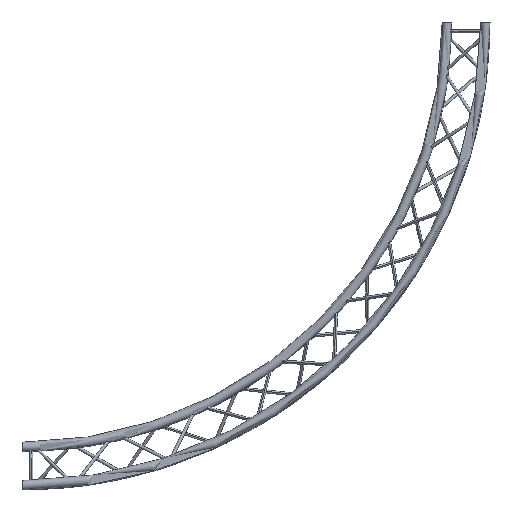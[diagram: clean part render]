
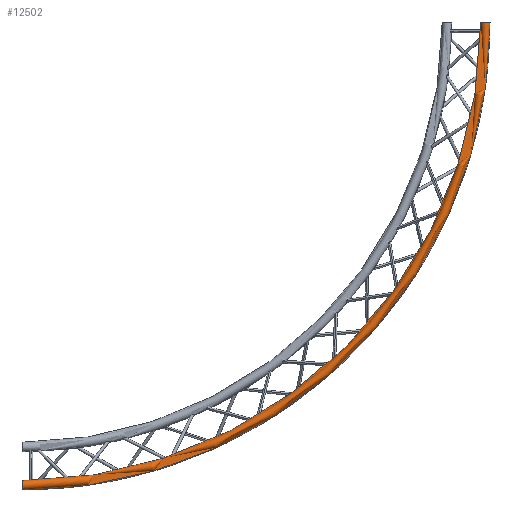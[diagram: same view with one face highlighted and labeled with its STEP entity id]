
A CAD part, front view. The second image highlights one B-rep face of the part: STEP entity #12502.
In plain terms, the highlighted toroidal (fillet/blend) face has major radius 2475 mm and minor radius 25 mm.
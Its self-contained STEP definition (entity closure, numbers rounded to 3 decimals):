
#4724 = CARTESIAN_POINT ( 'NONE',  ( 2500., -118.5, 0. ) ) ;
#4905 = DIRECTION ( 'NONE',  ( 0., 0., -1. ) ) ;
#4906 = DIRECTION ( 'NONE',  ( 0., -1., 0. ) ) ;
#4907 = CARTESIAN_POINT ( 'NONE',  ( 0., -118.5, 0. ) ) ;
#4908 = AXIS2_PLACEMENT_3D ( 'NONE', #4907, #4906, #4905 ) ;
#4909 = TOROIDAL_SURFACE ( 'NONE', #4908, 2475., 25. ) ;
#4910 = FACE_OUTER_BOUND ( 'NONE', #12390, .T. ) ;
#5152 = DIRECTION ( 'NONE',  ( 0., 0., -1. ) ) ;
#5153 = DIRECTION ( 'NONE',  ( 0., -1., 0. ) ) ;
#5154 = CARTESIAN_POINT ( 'NONE',  ( 0., -118.5, 0. ) ) ;
#5155 = AXIS2_PLACEMENT_3D ( 'NONE', #5154, #5153, #5152 ) ;
#5156 = CIRCLE ( 'NONE', #5155, 2500. ) ;
#5158 = CARTESIAN_POINT ( 'NONE',  ( 0., -118.5, -2450. ) ) ;
#5159 = CARTESIAN_POINT ( 'NONE',  ( 0., -118.5, -2500. ) ) ;
#5162 = DIRECTION ( 'NONE',  ( 0., 0., -1. ) ) ;
#5163 = DIRECTION ( 'NONE',  ( 1., 0., 0. ) ) ;
#5164 = CARTESIAN_POINT ( 'NONE',  ( 0., -118.5, -2475. ) ) ;
#5165 = AXIS2_PLACEMENT_3D ( 'NONE', #5164, #5163, #5162 ) ;
#5166 = CIRCLE ( 'NONE', #5165, 25. ) ;
#5853 = EDGE_CURVE ( 'NONE', #5929, #12405, #10524, .T. ) ;
#5880 = EDGE_CURVE ( 'NONE', #12558, #5929, #10894, .T. ) ;
#5883 = ORIENTED_EDGE ( 'NONE', *, *, #5880, .F. ) ;
#5929 = VERTEX_POINT ( 'NONE', #11411 ) ;
#10520 = DIRECTION ( 'NONE',  ( 1., 0., 0. ) ) ;
#10521 = DIRECTION ( 'NONE',  ( 0., 0., 1. ) ) ;
#10522 = CARTESIAN_POINT ( 'NONE',  ( 2475., -118.5, 0. ) ) ;
#10523 = AXIS2_PLACEMENT_3D ( 'NONE', #10522, #10521, #10520 ) ;
#10524 = CIRCLE ( 'NONE', #10523, 25. ) ;
#10894 = CIRCLE ( 'NONE', #10926, 2450. ) ;
#10923 = DIRECTION ( 'NONE',  ( 0., 0., -1. ) ) ;
#10924 = DIRECTION ( 'NONE',  ( 0., -1., 0. ) ) ;
#10925 = CARTESIAN_POINT ( 'NONE',  ( 0., -118.5, 0. ) ) ;
#10926 = AXIS2_PLACEMENT_3D ( 'NONE', #10925, #10924, #10923 ) ;
#11411 = CARTESIAN_POINT ( 'NONE',  ( 2450., -118.5, 0. ) ) ;
#12390 = EDGE_LOOP ( 'NONE', ( #12563, #12567, #12458, #5883 ) ) ;
#12405 = VERTEX_POINT ( 'NONE', #4724 ) ;
#12458 = ORIENTED_EDGE ( 'NONE', *, *, #5853, .F. ) ;
#12502 = ADVANCED_FACE ( 'NONE', ( #4910 ), #4909, .T. ) ;
#12549 = EDGE_CURVE ( 'NONE', #12558, #12556, #5166, .T. ) ;
#12556 = VERTEX_POINT ( 'NONE', #5159 ) ;
#12558 = VERTEX_POINT ( 'NONE', #5158 ) ;
#12563 = ORIENTED_EDGE ( 'NONE', *, *, #12549, .T. ) ;
#12566 = EDGE_CURVE ( 'NONE', #12556, #12405, #5156, .T. ) ;
#12567 = ORIENTED_EDGE ( 'NONE', *, *, #12566, .T. ) ;
